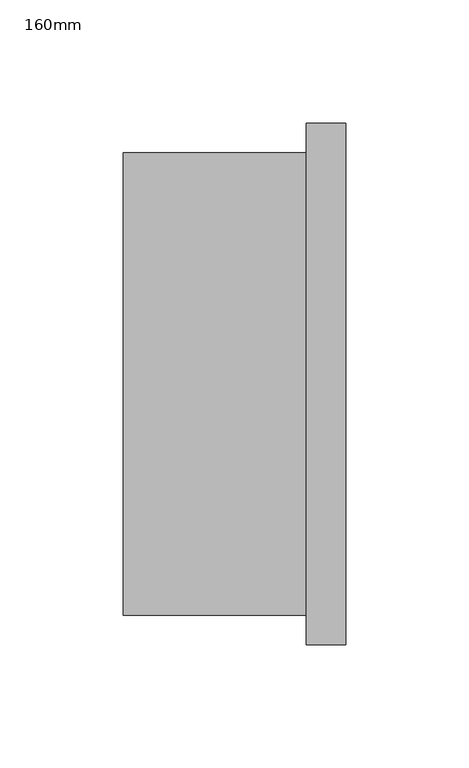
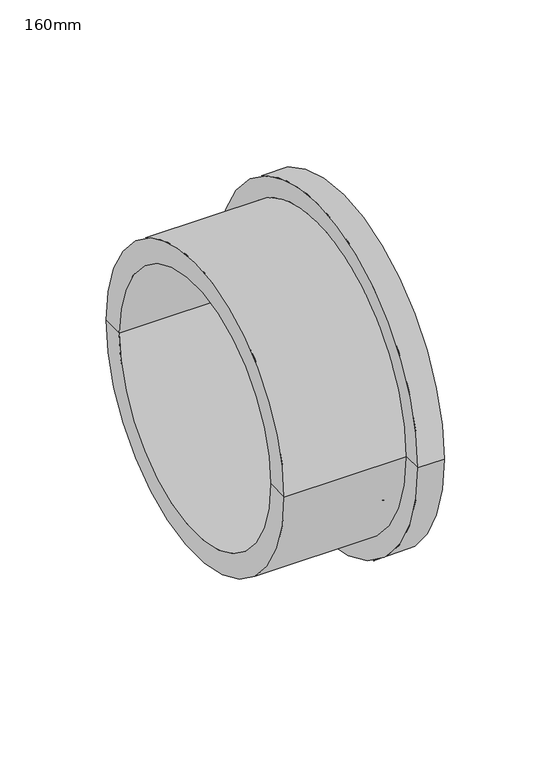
"""IFC4 building model written with IfcOpenShell, lengths in millimetres: pipe fitting geometry, Durapipe_PipeFitting_PVC_StubFlange : 160mm."""

from ifc_helpers import new_model, si_unit, frame, origin, place, context, project, spatial, polyline, circle_curve, source, transform, mapped, element, save
from ifc_brep_helpers import plane_surface, cylinder_surface, revolved_surface, advanced_brep


def pipe_fitting_160mm_4a2299de(model_context):
    return source(origin(), model_context, "Body", "AdvancedBrep", [
        advanced_brep(
        [(45.25, -106.0, 0.0), (45.25, 106.0, 0.0), (45.25, 79.95, 0.0), (45.25, -79.95, 0.0), (45.25, 70.0, 0.0), (45.25, -70.0, 0.0), (45.25, -76.2220779, 0.0), (45.25, 76.2220779, 0.0), (29.25, -106.0, 0.0), (29.25, 106.0, 0.0), (29.25, -94.0, 0.0), (29.25, 94.0, 0.0), (-45.25, -94.0, 0.0), (-45.25, 94.0, 0.0), (-45.25, -80.0, 0.0), (-45.25, 80.0, 0.0), (40.75, 70.0, 0.0), (40.75, -70.0, 0.0), (40.75, -80.0, 0.0), (40.75, 80.0, 0.0), (45.25, 77.4647186, 0.0), (43.75, 76.8433983, 0.0), (43.75, -76.8433983, 0.0), (45.25, -77.4647186, 0.0), (43.75, -78.086039, 0.0), (43.75, 78.086039, 0.0), (45.25, -78.7073593, 0.0), (45.25, 78.7073593, 0.0), (43.75, -79.3286797, 0.0), (43.75, 79.3286797, 0.0)],
        [
            (0, 1, circle_curve(frame((45.25, 0.0, 0.0), z_axis=(1.0, 0.0, 0.0), x_axis=(0.0, 1.0, 0.0)), 106.0)),
            (1, 2),
            (2, 3, circle_curve(frame((45.25, 0.0, 0.0), z_axis=(-1.0, 0.0, 0.0), x_axis=(0.0, -1.0, 0.0)), 79.95)),
            (3, 0),
            (4, 5, circle_curve(frame((45.25, 0.0, 0.0), z_axis=(-1.0, 0.0, 0.0), x_axis=(0.0, 1.0, 0.0)), 70.0)),
            (5, 6),
            (6, 7, circle_curve(frame((45.25, 0.0, 0.0), z_axis=(1.0, 0.0, 0.0), x_axis=(0.0, -1.0, 0.0)), 76.2220779)),
            (7, 4),
            (1, 0, circle_curve(frame((45.25, 0.0, 0.0), z_axis=(1.0, 0.0, 0.0), x_axis=(0.0, 1.0, 0.0)), 106.0)),
            (3, 2, circle_curve(frame((45.25, 0.0, 0.0), z_axis=(-1.0, 0.0, 0.0), x_axis=(0.0, 1.0, 0.0)), 79.95)),
            (5, 4, circle_curve(frame((45.25, 0.0, 0.0), z_axis=(-1.0, 0.0, 0.0), x_axis=(0.0, 1.0, 0.0)), 70.0)),
            (7, 6, circle_curve(frame((45.25, 0.0, 0.0), z_axis=(1.0, 0.0, 0.0), x_axis=(0.0, 1.0, 0.0)), 76.2220779)),
            (0, 8),
            (8, 9, circle_curve(frame((29.25, 0.0, 0.0), z_axis=(1.0, 0.0, 0.0), x_axis=(0.0, 1.0, 0.0)), 106.0)),
            (9, 1),
            (9, 8, circle_curve(frame((29.25, 0.0, 0.0), z_axis=(1.0, 0.0, 0.0), x_axis=(0.0, 1.0, 0.0)), 106.0)),
            (8, 10),
            (10, 11, circle_curve(frame((29.25, 0.0, 0.0), z_axis=(1.0, 0.0, 0.0), x_axis=(0.0, 1.0, 0.0)), 94.0)),
            (11, 9),
            (11, 10, circle_curve(frame((29.25, 0.0, 0.0), z_axis=(1.0, 0.0, 0.0), x_axis=(0.0, 1.0, 0.0)), 94.0)),
            (10, 12),
            (12, 13, circle_curve(frame((-45.25, 0.0, 0.0), z_axis=(1.0, 0.0, 0.0), x_axis=(0.0, 1.0, 0.0)), 94.0)),
            (13, 11),
            (13, 12, circle_curve(frame((-45.25, 0.0, 0.0), z_axis=(1.0, 0.0, 0.0), x_axis=(0.0, 1.0, 0.0)), 94.0)),
            (12, 14),
            (14, 15, circle_curve(frame((-45.25, 0.0, 0.0), z_axis=(1.0, 0.0, 0.0), x_axis=(0.0, 1.0, 0.0)), 80.0)),
            (15, 13),
            (15, 14, circle_curve(frame((-45.25, 0.0, 0.0), z_axis=(1.0, 0.0, 0.0), x_axis=(0.0, 1.0, 0.0)), 80.0)),
            (4, 16),
            (16, 17, circle_curve(frame((40.75, 0.0, 0.0), z_axis=(-1.0, 0.0, 0.0), x_axis=(0.0, 1.0, 0.0)), 70.0)),
            (17, 5),
            (17, 16, circle_curve(frame((40.75, 0.0, 0.0), z_axis=(-1.0, 0.0, 0.0), x_axis=(0.0, 1.0, 0.0)), 70.0)),
            (14, 18),
            (18, 19, circle_curve(frame((40.75, 0.0, 0.0), z_axis=(1.0, 0.0, 0.0), x_axis=(0.0, 1.0, 0.0)), 80.0)),
            (19, 15),
            (19, 18, circle_curve(frame((40.75, 0.0, 0.0), z_axis=(1.0, 0.0, 0.0), x_axis=(0.0, 1.0, 0.0)), 80.0)),
            (18, 17),
            (16, 19),
            (20, 21),
            (21, 22, circle_curve(frame((43.75, 0.0, 0.0), z_axis=(-1.0, 0.0, 0.0), x_axis=(0.0, -1.0, 0.0)), 76.8433983)),
            (22, 23),
            (23, 20, circle_curve(frame((45.25, 0.0, 0.0), z_axis=(1.0, 0.0, 0.0), x_axis=(0.0, -1.0, 0.0)), 77.4647186)),
            (23, 24),
            (24, 25, circle_curve(frame((43.75, 0.0, 0.0), z_axis=(1.0, 0.0, 0.0), x_axis=(0.0, -1.0, 0.0)), 78.086039)),
            (25, 20),
            (24, 26),
            (26, 27, circle_curve(frame((45.25, 0.0, 0.0), z_axis=(1.0, 0.0, 0.0), x_axis=(0.0, -1.0, 0.0)), 78.7073593)),
            (27, 25),
            (26, 28),
            (28, 29, circle_curve(frame((43.75, 0.0, 0.0), z_axis=(1.0, 0.0, 0.0), x_axis=(0.0, -1.0, 0.0)), 79.3286797)),
            (29, 27),
            (28, 3),
            (2, 29),
            (21, 7),
            (6, 22),
            (20, 23, circle_curve(frame((45.25, 0.0, 0.0), z_axis=(1.0, 0.0, 0.0), x_axis=(0.0, 1.0, 0.0)), 77.4647186)),
            (22, 21, circle_curve(frame((43.75, 0.0, 0.0), z_axis=(-1.0, 0.0, 0.0), x_axis=(0.0, 1.0, 0.0)), 76.8433983)),
            (25, 24, circle_curve(frame((43.75, 0.0, 0.0), z_axis=(1.0, 0.0, 0.0), x_axis=(0.0, 1.0, 0.0)), 78.086039)),
            (27, 26, circle_curve(frame((45.25, 0.0, 0.0), z_axis=(1.0, 0.0, 0.0), x_axis=(0.0, 1.0, 0.0)), 78.7073593)),
            (29, 28, circle_curve(frame((43.75, 0.0, 0.0), z_axis=(1.0, 0.0, 0.0), x_axis=(0.0, 1.0, 0.0)), 79.3286797)),
        ],
        [
            plane_surface(frame((45.25, 0.0, 0.0), z_axis=(1.0, 0.0, 0.0), x_axis=(0.0, 1.0, 0.0))),
            cylinder_surface(frame((48.3535546, 0.0, 0.0), z_axis=(-1.0, 0.0, 0.0), x_axis=(0.0, 1.0, 0.0)), 106.0),
            plane_surface(frame((29.25, 0.0, 0.0), z_axis=(-1.0, 0.0, 0.0), x_axis=(0.0, 1.0, 0.0))),
            cylinder_surface(frame((48.3535546, 0.0, 0.0), z_axis=(-1.0, 0.0, 0.0), x_axis=(0.0, 1.0, 0.0)), 94.0),
            plane_surface(frame((-45.25, 0.0, 0.0), z_axis=(-1.0, 0.0, 0.0), x_axis=(0.0, 1.0, 0.0))),
            revolved_surface(polyline([(40.75, 70.0, 0.0), (45.25, 70.0, 0.0)]), (48.3535546, 0.0, 0.0), (-1.0, 0.0, 0.0)),
            revolved_surface(polyline([(-45.25, 80.0, 0.0), (40.75, 80.0, 0.0)]), (-47.0750714, 0.0, 0.0), (-1.0, 0.0, 0.0)),
            plane_surface(frame((40.75, 0.0, 0.0), z_axis=(-1.0, 0.0, 0.0), x_axis=(0.0, 1.0, 0.0))),
            revolved_surface(polyline([(45.25, -77.4647186, 0.0), (43.75, -76.8433983, 0.0)]), (45.25, 0.0, 0.0), (1.0, 0.0, 0.0)),
            revolved_surface(polyline([(43.75, -78.086039, 0.0), (45.25, -77.4647186, 0.0)]), (45.25, 0.0, 0.0), (1.0, 0.0, 0.0)),
            revolved_surface(polyline([(45.25, -78.7073593, 0.0), (43.75, -78.086039, 0.0)]), (45.25, 0.0, 0.0), (1.0, 0.0, 0.0)),
            revolved_surface(polyline([(43.75, -79.3286797, 0.0), (45.25, -78.7073593, 0.0)]), (45.25, 0.0, 0.0), (1.0, 0.0, 0.0)),
            revolved_surface(polyline([(45.25, -79.95, 0.0), (43.75, -79.3286797, 0.0)]), (45.25, 0.0, 0.0), (1.0, 0.0, 0.0)),
            revolved_surface(polyline([(43.75, -76.8433983, 0.0), (45.25, -76.2220779, 0.0)]), (45.25, 0.0, 0.0), (1.0, 0.0, 0.0)),
            revolved_surface(polyline([(45.25, 77.4647186, 0.0), (43.75, 76.8433983, 0.0)]), (45.25, 0.0, 0.0), (1.0, 0.0, 0.0)),
            revolved_surface(polyline([(43.75, 78.086039, 0.0), (45.25, 77.4647186, 0.0)]), (45.25, 0.0, 0.0), (1.0, 0.0, 0.0)),
            revolved_surface(polyline([(45.25, 78.7073593, 0.0), (43.75, 78.086039, 0.0)]), (45.25, 0.0, 0.0), (1.0, 0.0, 0.0)),
            revolved_surface(polyline([(43.75, 79.3286797, 0.0), (45.25, 78.7073593, 0.0)]), (45.25, 0.0, 0.0), (1.0, 0.0, 0.0)),
            revolved_surface(polyline([(45.25, 79.95, 0.0), (43.75, 79.3286797, 0.0)]), (45.25, 0.0, 0.0), (1.0, 0.0, 0.0)),
            revolved_surface(polyline([(43.75, 76.8433983, 0.0), (45.25, 76.2220779, 0.0)]), (45.25, 0.0, 0.0), (1.0, 0.0, 0.0)),
        ],
        [
            (0, [[1, 2, 3, 4]]),
            (0, [[5, 6, 7, 8]]),
            (0, [[9, -4, 10, -2]]),
            (0, [[11, -8, 12, -6]]),
            (1, [[-1, 13, 14, 15]]),
            (1, [[-9, -15, 16, -13]]),
            (2, [[-14, 17, 18, 19]]),
            (2, [[-16, -19, 20, -17]]),
            (3, [[-18, 21, 22, 23]]),
            (3, [[-20, -23, 24, -21]]),
            (4, [[-22, 25, 26, 27]]),
            (4, [[-24, -27, 28, -25]]),
            (5, [[-5, 29, 30, 31]]),
            (5, [[-11, -31, 32, -29]]),
            (6, [[33, 34, 35, -26]]),
            (6, [[-33, -28, -35, 36]]),
            (7, [[-34, 37, -30, 38]]),
            (7, [[-36, -38, -32, -37]]),
            (8, [[39, 40, 41, 42]]),
            (9, [[-42, 43, 44, 45]]),
            (10, [[-44, 46, 47, 48]]),
            (11, [[-47, 49, 50, 51]]),
            (12, [[-50, 52, -3, 53]]),
            (13, [[-40, 54, -7, 55]]),
            (14, [[-39, 56, -41, 57]]),
            (15, [[-45, 58, -43, -56]]),
            (16, [[-48, 59, -46, -58]]),
            (17, [[-51, 60, -49, -59]]),
            (18, [[-53, -10, -52, -60]]),
            (19, [[-54, -57, -55, -12]]),
        ],
    ),
    ])


if __name__ == "__main__":
    model = new_model("IFC4")
    model_context = context("Model", 3, world=origin())
    ifc_project = project(units=[si_unit("LENGTHUNIT", "METRE", prefix="MILLI")], contexts=[model_context])
    site = spatial("IfcSite", under=ifc_project)
    building = spatial("IfcBuilding", under=site)
    placement = place(None, origin())
    pipe_fitting_160mm_shape = pipe_fitting_160mm_4a2299de(model_context)
    element("IfcPipeFitting", 1, ObjectType="Durapipe_PipeFitting_PVC_StubFlange : 160mm", at=placement, inside=building, context=model_context, shape_type="MappedRepresentation", body=[
        mapped(pipe_fitting_160mm_shape, transform((0.0, 0.0, 0.0), x_axis=(1.0, 0.0, 0.0), y_axis=(0.0, 1.0, 0.0), z_axis=(0.0, 0.0, 1.0))),
    ])
    save(model, "model.ifc")
